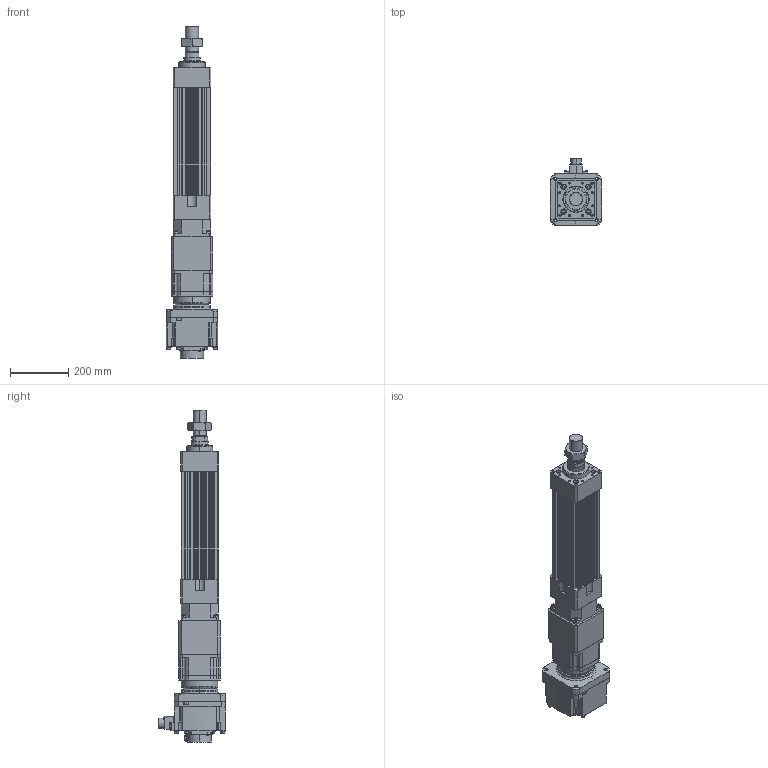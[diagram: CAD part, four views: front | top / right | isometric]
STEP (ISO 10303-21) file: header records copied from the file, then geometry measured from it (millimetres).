
FILE_DESCRIPTION (( 'STEP AP203' ), '1' );
FILE_NAME ('HES130FS(HS)-S150-W020G00-M.STEP', '2023-01-30T11:28:41', ( 'tms' ), ( '' ), 'SwSTEP 2.0', 'SolidWorks 2013', '' );
FILE_SCHEMA (( 'CONFIG_CONTROL_DESIGN' ));
Length unit declared in the file: millimetre
Products named in the file (9): HES130FS(HS)-S150-W020G00-M; P1301500001; AB142-003[HG-SR352]; HES130 ROD M ST150; HES130-S150-G142; HG-SR202; P0403500801; AB1421; M45X1.5P
Assembly tree (8 placements, depth 3):
  HES130FS(HS)-S150-W020G00-M
    HES130-S150-G142
    HES130 ROD M ST150
    M45X1.5P
    AB142-003[HG-SR352]
      AB1421
      P1301500001
      P0403500801
    HG-SR202
Bounding box: 176 x 228.85 x 1137.5 mm (x, y, z)
Volume: 10130598.8 mm3; surface area: 1254977.5 mm2
Topology: 4 solids, 22 shells, 1527 faces, 3928 edges, 2530 vertices
Faces by surface type: cylinder 683, plane 580, cone 182, bspline 76, torus 6
Entity records: 55214 total; most frequent: CARTESIAN_POINT 16756, DIRECTION 8052, ORIENTED_EDGE 7718, EDGE_CURVE 3881, AXIS2_PLACEMENT_3D 3043, VERTEX_POINT 2530, VECTOR 1966, LINE 1966
